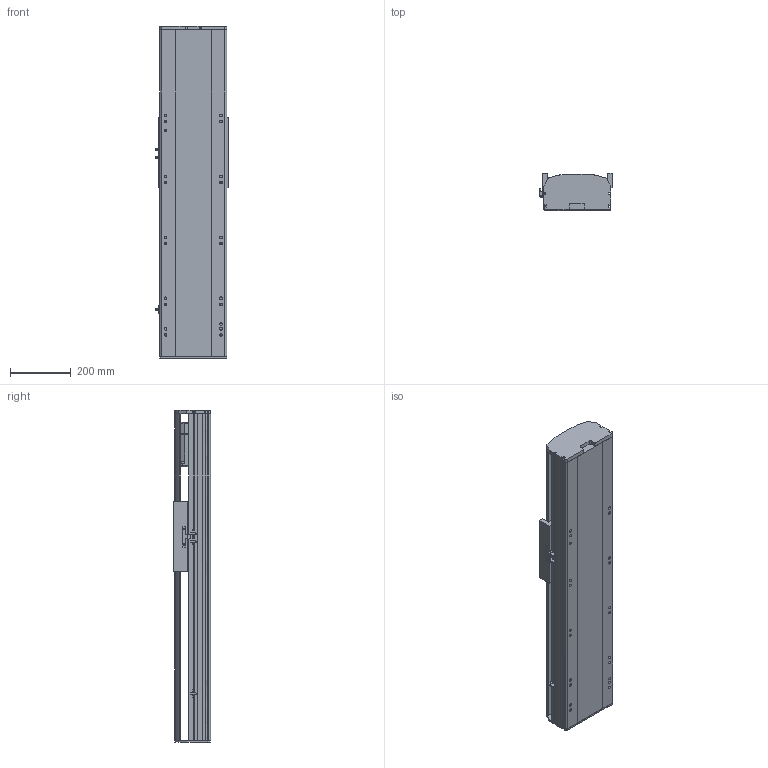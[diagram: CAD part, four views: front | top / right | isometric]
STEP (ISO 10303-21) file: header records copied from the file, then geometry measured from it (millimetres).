
FILE_DESCRIPTION (( 'STEP AP214' ), '1' );
FILE_NAME ('RTH22-XX-500-B-M75-C4.STEP', '2025-10-24T10:28:48', ( 'Microsoft' ), ( 'Microsoft' ), 'SwSTEP 2.0', 'SolidWorks 2018', '' );
FILE_SCHEMA (( 'AUTOMOTIVE_DESIGN' ));
Length unit declared in the file: millimetre
Products named in the file (9): N_RTH22-GY-013外置感应片^RTH22-XX-XX-B-M75-C4; N_RTH22-E-004-SFS25賑釱^RTH22-XX-XX-B-M75-C4; N_750W萇儂^RTH22-XX-XX-B-M75-C4; N_RTH22-B-007奻裔^RTH22-XX-XX-B-M75-C4; N_RTH22-B-011菁釱^RTH22-XX-XX-B-M75-C4; N_RTH22-GY-001耜裔^RTH22-XX-XX-B-M75-C4; N_RTH22-B-008萇儂啣^RTH22-XX-XX-B-M75-C4; RTH22-XX-500-B-M75-C4; N_OMRON EE-SX672 传感器^RTH22-XX-XX-B-M75-C4
Assembly tree (10 placements, depth 2):
  RTH22-XX-500-B-M75-C4
    N_RTH22-B-011菁釱^RTH22-XX-XX-B-M75-C4
    N_RTH22-GY-001耜裔^RTH22-XX-XX-B-M75-C4
    N_750W萇儂^RTH22-XX-XX-B-M75-C4
    N_RTH22-B-008萇儂啣^RTH22-XX-XX-B-M75-C4
    N_RTH22-B-007奻裔^RTH22-XX-XX-B-M75-C4
    N_OMRON EE-SX672 传感器^RTH22-XX-XX-B-M75-C4  x3
    N_RTH22-GY-013外置感应片^RTH22-XX-XX-B-M75-C4
    N_RTH22-E-004-SFS25賑釱^RTH22-XX-XX-B-M75-C4
Bounding box: 238.5 x 122 x 1090 mm (x, y, z)
Volume: 15641326.5 mm3; surface area: 1635435.1 mm2
Topology: 10 solids, 10 shells, 1497 faces, 4100 edges, 2653 vertices
Faces by surface type: plane 750, cylinder 418, bspline 279, cone 50
Entity records: 36775 total; most frequent: CARTESIAN_POINT 11549, ORIENTED_EDGE 5192, DIRECTION 4834, EDGE_CURVE 2596, VERTEX_POINT 1689, VECTOR 1614, LINE 1614, AXIS2_PLACEMENT_3D 1610
